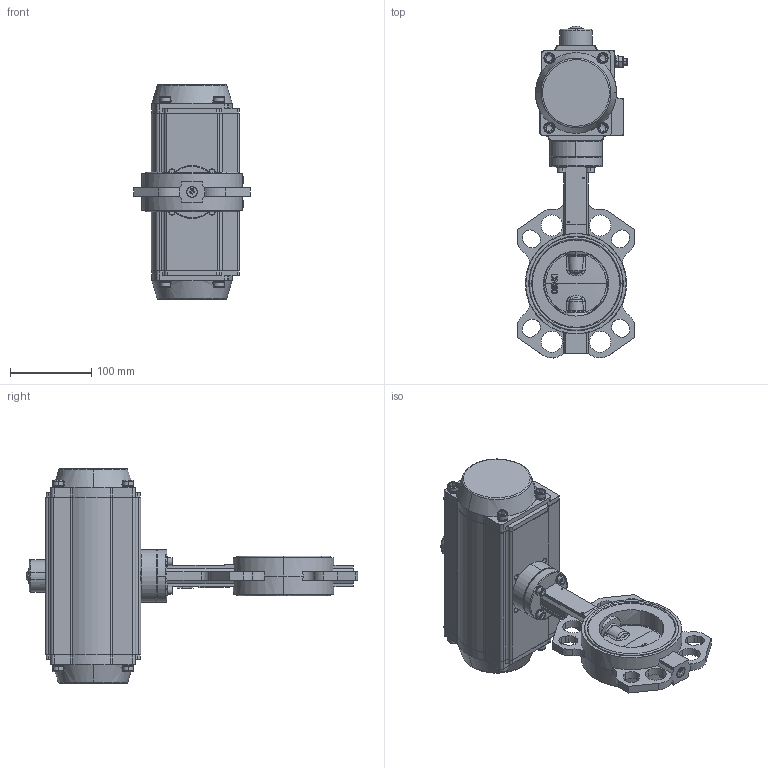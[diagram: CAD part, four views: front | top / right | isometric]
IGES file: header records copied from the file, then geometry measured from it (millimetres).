
Start section: SolidWorks IGES file using NURBS representation for surfaces
Global section: file name: H:\BE BIBLIOTHEQUE 3D\Projet_Biblio3D_2016\FSK\VPI\VPI-N07\VPI-N07 DN80.Igs; native system: SolidWorks 2014; preprocessor: SolidWorks 2014; author: a.cartier; date: 160929.175706; units: millimetre
Bounding box: 144 x 408.66 x 264 mm (x, y, z)
Volume: 1784364.7 mm3; surface area: 463965.1 mm2
Topology: 58 solids, 58 shells, 2394 faces, 6262 edges, 3963 vertices
Faces by surface type: bspline 2394
